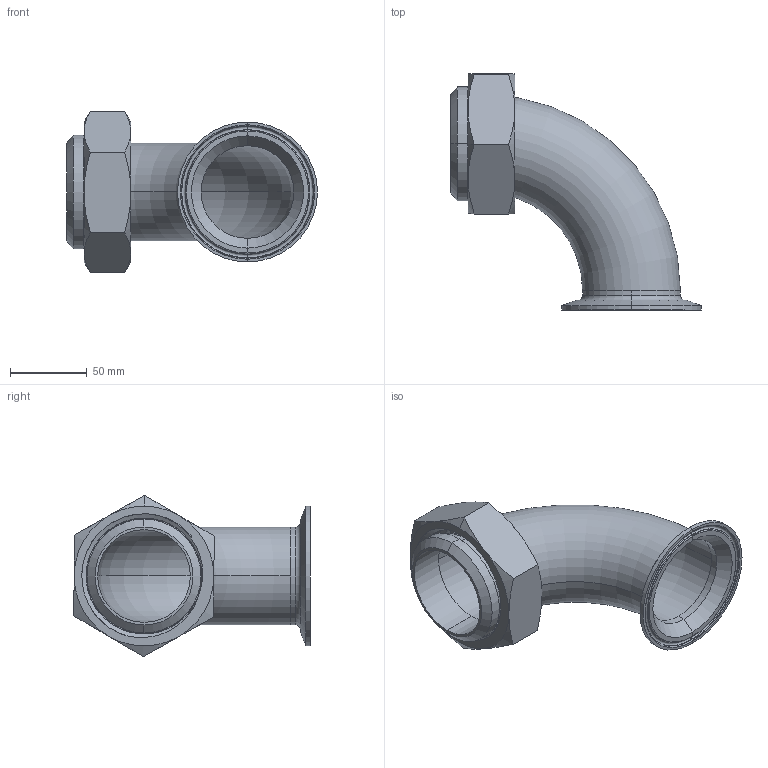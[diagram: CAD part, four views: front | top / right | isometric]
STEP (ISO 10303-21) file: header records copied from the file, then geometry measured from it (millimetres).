
FILE_DESCRIPTION (( 'STEP AP203' ), '1' );
FILE_NAME ('EG231FPR3.0X2.5.STEP', '2018-05-09T15:22:40', ( 'vneprd' ), ( 'Microsoft' ), 'SwSTEP 2.0', 'SolidWorks 2014', '' );
FILE_SCHEMA (( 'CONFIG_CONTROL_DESIGN' ));
Length unit declared in the file: inch
Products named in the file (5): EG2CS31D3.0X2.5; EG231FPR3.0X2.5; 2WCL2.5; 14PR2.5; 13H2.5
Assembly tree (4 placements, depth 2):
  EG231FPR3.0X2.5
    2WCL2.5
    14PR2.5
    13H2.5
    EG2CS31D3.0X2.5
Bounding box: 163 x 153.53 x 104.85 mm (x, y, z)
Volume: 155012.2 mm3; surface area: 106495.4 mm2
Topology: 4 solids, 4 shells, 87 faces, 189 edges, 113 vertices
Faces by surface type: cone 28, cylinder 26, plane 18, torus 12, bspline 3
Entity records: 4023 total; most frequent: CARTESIAN_POINT 1633, DIRECTION 415, ORIENTED_EDGE 378, EDGE_CURVE 189, AXIS2_PLACEMENT_3D 181, VERTEX_POINT 113, EDGE_LOOP 98, CIRCLE 90
